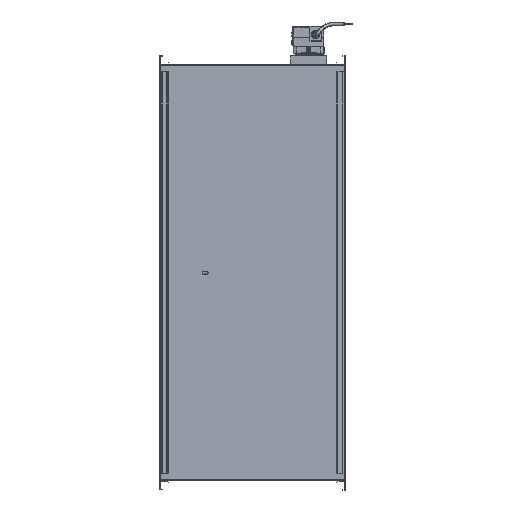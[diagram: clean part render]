
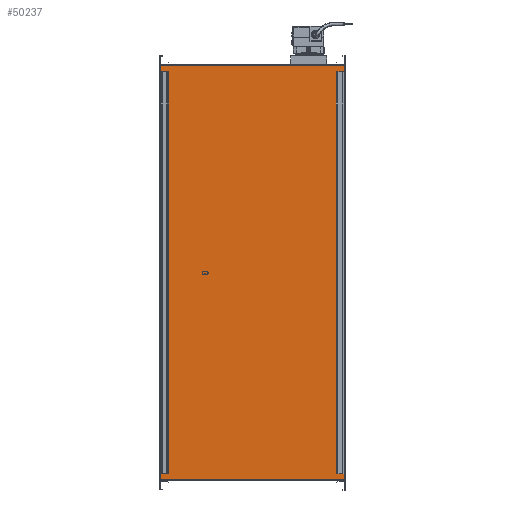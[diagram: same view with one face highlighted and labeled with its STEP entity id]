
A CAD part, front view. The second image highlights one B-rep face of the part: STEP entity #50237.
In plain terms, the highlighted planar face has unit normal (0, -1, 0).
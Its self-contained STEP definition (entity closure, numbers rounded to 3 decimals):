
#3888 = DIRECTION ( 'NONE',  ( 0., 0., -1. ) ) ;
#4933 = AXIS2_PLACEMENT_3D ( 'NONE', #24668, #9511, #39316 ) ;
#8846 = ORIENTED_EDGE ( 'NONE', *, *, #31959, .T. ) ;
#9511 = DIRECTION ( 'NONE',  ( 0., -1., 0. ) ) ;
#14729 = CARTESIAN_POINT ( 'NONE',  ( -244.423, -435.848, 652. ) ) ;
#15416 = EDGE_LOOP ( 'NONE', ( #59562, #80872, #8846, #94049 ) ) ;
#21358 = CARTESIAN_POINT ( 'NONE',  ( -244.423, -435.848, 1548. ) ) ;
#23298 = CARTESIAN_POINT ( 'NONE',  ( 155.577, -435.848, 652. ) ) ;
#24668 = CARTESIAN_POINT ( 'NONE',  ( -244.423, -435.848, 652. ) ) ;
#25141 = PLANE ( 'NONE',  #4933 ) ;
#30949 = DIRECTION ( 'NONE',  ( 0., 0., -1. ) ) ;
#31959 = EDGE_CURVE ( 'NONE', #77717, #43414, #67503, .T. ) ;
#33465 = FACE_OUTER_BOUND ( 'NONE', #15416, .T. ) ;
#35360 = CARTESIAN_POINT ( 'NONE',  ( 155.577, -435.848, 1548. ) ) ;
#39027 = VERTEX_POINT ( 'NONE', #23298 ) ;
#39316 = DIRECTION ( 'NONE',  ( 0., 0., -1. ) ) ;
#39874 = EDGE_CURVE ( 'NONE', #86273, #39027, #65357, .T. ) ;
#41012 = CARTESIAN_POINT ( 'NONE',  ( 155.577, -435.848, 652. ) ) ;
#41657 = CARTESIAN_POINT ( 'NONE',  ( -244.423, -435.848, 1548. ) ) ;
#43414 = VERTEX_POINT ( 'NONE', #14729 ) ;
#45386 = EDGE_CURVE ( 'NONE', #43414, #39027, #64579, .T. ) ;
#49777 = VECTOR ( 'NONE', #3888, 1000. ) ;
#49925 = DIRECTION ( 'NONE',  ( 1., 0., 0. ) ) ;
#50237 = ADVANCED_FACE ( 'NONE', ( #33465 ), #25141, .T. ) ;
#55270 = VECTOR ( 'NONE', #49925, 1000. ) ;
#59562 = ORIENTED_EDGE ( 'NONE', *, *, #39874, .F. ) ;
#64579 = LINE ( 'NONE', #94408, #55270 ) ;
#65357 = LINE ( 'NONE', #41012, #49777 ) ;
#65836 = EDGE_CURVE ( 'NONE', #77717, #86273, #88284, .T. ) ;
#67503 = LINE ( 'NONE', #83139, #81297 ) ;
#70121 = VECTOR ( 'NONE', #81933, 1000. ) ;
#77717 = VERTEX_POINT ( 'NONE', #41657 ) ;
#80872 = ORIENTED_EDGE ( 'NONE', *, *, #65836, .F. ) ;
#81297 = VECTOR ( 'NONE', #30949, 1000. ) ;
#81933 = DIRECTION ( 'NONE',  ( 1., 0., 0. ) ) ;
#83139 = CARTESIAN_POINT ( 'NONE',  ( -244.423, -435.848, 652. ) ) ;
#86273 = VERTEX_POINT ( 'NONE', #35360 ) ;
#88284 = LINE ( 'NONE', #21358, #70121 ) ;
#94049 = ORIENTED_EDGE ( 'NONE', *, *, #45386, .T. ) ;
#94408 = CARTESIAN_POINT ( 'NONE',  ( -244.423, -435.848, 652. ) ) ;
